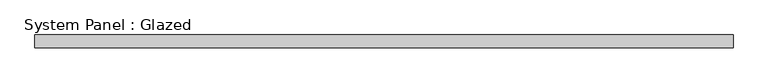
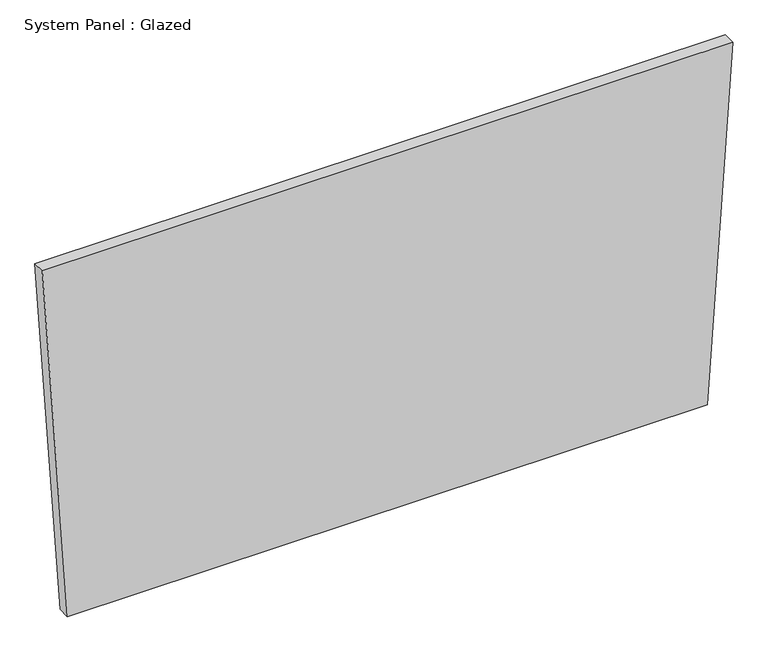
"""IFC4 building model written with IfcOpenShell, lengths in millimetres: plate geometry, System Panel : Glazed."""

from ifc_helpers import new_model, si_unit, frame, origin, place, context, project, spatial, polyline, outline, extrude, source, transform, mapped, element, save


def system_panel_glazed_5b0640af(model_context):
    return source(origin(), model_context, "Body", "SweptSolid", [
        extrude(outline(polyline([(0.0, -638.2433224), (0.0002254, 638.2433212), (745.8632496, 688.4526776), (745.8630065, -688.4526776), (0.0, -638.2433224)])), frame((0.0, 19.05, 0.0), z_axis=(0.0, 1.0, 0.0), x_axis=(0.0, 0.0, 1.0)), (0.0, 0.0, 1.0), 25.4),
    ])


if __name__ == "__main__":
    model = new_model("IFC4")
    model_context = context("Model", 3, world=origin())
    ifc_project = project(units=[si_unit("LENGTHUNIT", "METRE", prefix="MILLI")], contexts=[model_context])
    site = spatial("IfcSite", under=ifc_project)
    building = spatial("IfcBuilding", under=site)
    placement = place(None, origin())
    system_panel_glazed_shape = system_panel_glazed_5b0640af(model_context)
    element("IfcPlate", 1, ObjectType="System Panel : Glazed", at=placement, inside=building, context=model_context, shape_type="MappedRepresentation", body=[
        mapped(system_panel_glazed_shape, transform((0.0, 0.0, 0.0), x_axis=(1.0, 0.0, 0.0), y_axis=(0.0, 1.0, 0.0), z_axis=(0.0, 0.0, 1.0))),
    ])
    save(model, "model.ifc")
